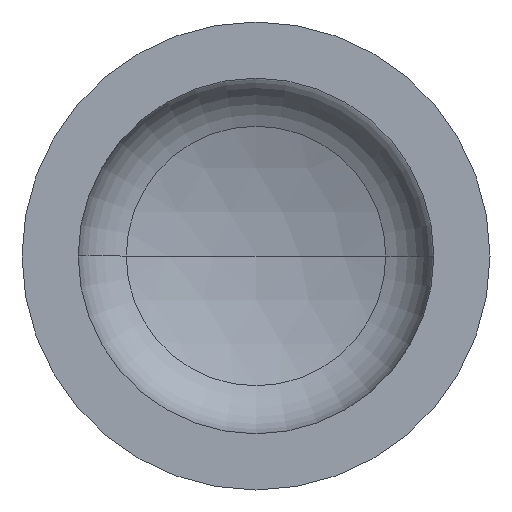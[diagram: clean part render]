
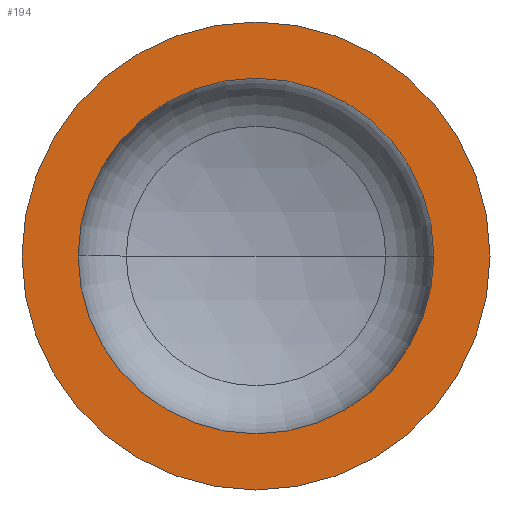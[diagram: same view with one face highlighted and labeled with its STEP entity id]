
A CAD part, front view. The second image highlights one B-rep face of the part: STEP entity #194.
In plain terms, the highlighted planar face has unit normal (0, -1, 0).
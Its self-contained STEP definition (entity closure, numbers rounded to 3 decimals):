
#4 = AXIS2_PLACEMENT_3D ( 'NONE', #307, #159, #330 ) ;
#7 = EDGE_LOOP ( 'NONE', ( #14, #53 ) ) ;
#8 = DIRECTION ( 'NONE',  ( 1., 0., 0. ) ) ;
#14 = ORIENTED_EDGE ( 'NONE', *, *, #387, .T. ) ;
#36 = AXIS2_PLACEMENT_3D ( 'NONE', #214, #193, #64 ) ;
#47 = VERTEX_POINT ( 'NONE', #256 ) ;
#53 = ORIENTED_EDGE ( 'NONE', *, *, #105, .T. ) ;
#57 = EDGE_LOOP ( 'NONE', ( #86, #129 ) ) ;
#64 = DIRECTION ( 'NONE',  ( -1., 0., 0. ) ) ;
#78 = AXIS2_PLACEMENT_3D ( 'NONE', #324, #323, #332 ) ;
#79 = AXIS2_PLACEMENT_3D ( 'NONE', #355, #327, #376 ) ;
#80 = VERTEX_POINT ( 'NONE', #304 ) ;
#86 = ORIENTED_EDGE ( 'NONE', *, *, #107, .F. ) ;
#105 = EDGE_CURVE ( 'NONE', #47, #80, #226, .T. ) ;
#107 = EDGE_CURVE ( 'NONE', #135, #121, #232, .T. ) ;
#121 = VERTEX_POINT ( 'NONE', #318 ) ;
#129 = ORIENTED_EDGE ( 'NONE', *, *, #410, .F. ) ;
#130 = FACE_BOUND ( 'NONE', #57, .T. ) ;
#135 = VERTEX_POINT ( 'NONE', #302 ) ;
#159 = DIRECTION ( 'NONE',  ( 0., -1., 0. ) ) ;
#165 = CARTESIAN_POINT ( 'NONE',  ( 0., 0., 0. ) ) ;
#169 = DIRECTION ( 'NONE',  ( 0., -1., 0. ) ) ;
#193 = DIRECTION ( 'NONE',  ( 0., 1., 0. ) ) ;
#194 = ADVANCED_FACE ( 'NONE', ( #130, #346 ), #197, .F. ) ;
#197 = PLANE ( 'NONE',  #36 ) ;
#214 = CARTESIAN_POINT ( 'NONE',  ( -350., 0., 0. ) ) ;
#226 = CIRCLE ( 'NONE', #79, 350. ) ;
#232 = CIRCLE ( 'NONE', #78, 266. ) ;
#256 = CARTESIAN_POINT ( 'NONE',  ( -350., 0., 0. ) ) ;
#272 = AXIS2_PLACEMENT_3D ( 'NONE', #165, #169, #8 ) ;
#302 = CARTESIAN_POINT ( 'NONE',  ( 266., 0., 0. ) ) ;
#304 = CARTESIAN_POINT ( 'NONE',  ( 350., 0., 0. ) ) ;
#307 = CARTESIAN_POINT ( 'NONE',  ( 0., 0., 0. ) ) ;
#318 = CARTESIAN_POINT ( 'NONE',  ( -266., 0., 0. ) ) ;
#323 = DIRECTION ( 'NONE',  ( 0., -1., 0. ) ) ;
#324 = CARTESIAN_POINT ( 'NONE',  ( 0., 0., 0. ) ) ;
#327 = DIRECTION ( 'NONE',  ( 0., -1., 0. ) ) ;
#330 = DIRECTION ( 'NONE',  ( 1., 0., 0. ) ) ;
#332 = DIRECTION ( 'NONE',  ( 1., 0., 0. ) ) ;
#346 = FACE_OUTER_BOUND ( 'NONE', #7, .T. ) ;
#349 = CIRCLE ( 'NONE', #272, 266. ) ;
#355 = CARTESIAN_POINT ( 'NONE',  ( 0., 0., 0. ) ) ;
#362 = CIRCLE ( 'NONE', #4, 350. ) ;
#376 = DIRECTION ( 'NONE',  ( 1., 0., 0. ) ) ;
#387 = EDGE_CURVE ( 'NONE', #80, #47, #362, .T. ) ;
#410 = EDGE_CURVE ( 'NONE', #121, #135, #349, .T. ) ;
